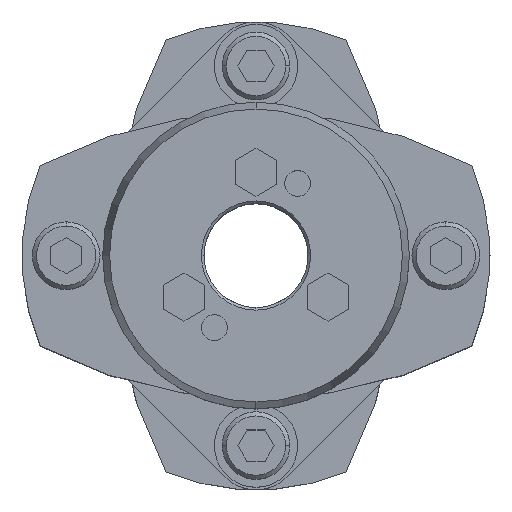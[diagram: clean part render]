
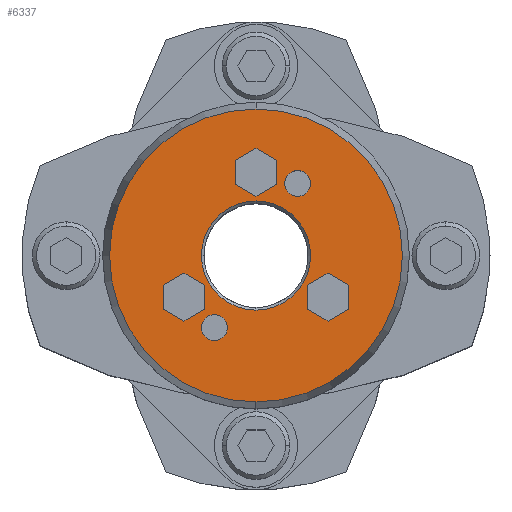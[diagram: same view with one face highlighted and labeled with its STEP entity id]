
A CAD part, top view. The second image highlights one B-rep face of the part: STEP entity #6337.
In plain terms, the highlighted planar face has unit normal (0, 0, 1).
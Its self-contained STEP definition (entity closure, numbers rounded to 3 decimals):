
#1677=CARTESIAN_POINT('',(0.,10.5,52.0));
#1678=VERTEX_POINT('',#1677);
#1694=CARTESIAN_POINT('',(0.,-10.5,52.0));
#1695=VERTEX_POINT('',#1694);
#1702=CARTESIAN_POINT('',(0.,0.,52.0));
#1703=DIRECTION('',(0.0,0.0,1.0));
#1704=DIRECTION('',(0.0,1.0,0.0));
#1705=AXIS2_PLACEMENT_3D('',#1702,#1703,#1704);
#1706=CIRCLE('',#1705,10.5);
#1707=EDGE_CURVE('',#1695,#1678,#1706,.T.);
#1865=CARTESIAN_POINT('',(0.,-28.16,52.0));
#1866=VERTEX_POINT('',#1865);
#1873=CARTESIAN_POINT('',(0.,28.16,52.0));
#1874=VERTEX_POINT('',#1873);
#1875=CARTESIAN_POINT('',(0.,0.,52.0));
#1876=DIRECTION('',(0.0,0.0,-1.0));
#1877=DIRECTION('',(0.0,-1.0,0.0));
#1878=AXIS2_PLACEMENT_3D('',#1875,#1876,#1877);
#1879=CIRCLE('',#1878,28.16);
#1880=EDGE_CURVE('',#1866,#1874,#1879,.T.);
#2123=CARTESIAN_POINT('',(8.,16.356,52.0));
#2124=VERTEX_POINT('',#2123);
#2140=CARTESIAN_POINT('',(8.,11.356,52.0));
#2141=VERTEX_POINT('',#2140);
#2148=CARTESIAN_POINT('',(8.,13.856,52.0));
#2149=DIRECTION('',(0.0,0.0,-1.0));
#2150=DIRECTION('',(0.0,1.0,0.0));
#2151=AXIS2_PLACEMENT_3D('',#2148,#2149,#2150);
#2152=CIRCLE('',#2151,2.5);
#2153=EDGE_CURVE('',#2124,#2141,#2152,.T.);
#2165=CARTESIAN_POINT('',(-8.,-11.356,52.0));
#2166=VERTEX_POINT('',#2165);
#2182=CARTESIAN_POINT('',(-8.,-16.356,52.0));
#2183=VERTEX_POINT('',#2182);
#2190=CARTESIAN_POINT('',(-8.,-13.856,52.0));
#2191=DIRECTION('',(0.0,0.0,-1.0));
#2192=DIRECTION('',(0.0,1.0,0.0));
#2193=AXIS2_PLACEMENT_3D('',#2190,#2191,#2192);
#2194=CIRCLE('',#2193,2.5);
#2195=EDGE_CURVE('',#2166,#2183,#2194,.T.);
#4853=CARTESIAN_POINT('',(13.856,-3.381,52.0));
#4854=VERTEX_POINT('',#4853);
#4861=CARTESIAN_POINT('',(9.856,-5.691,52.0));
#4862=VERTEX_POINT('',#4861);
#4863=CARTESIAN_POINT('',(9.856,-5.691,52.0));
#4864=DIRECTION('',(0.866,0.5,0.0));
#4865=VECTOR('',#4864,4.619);
#4866=LINE('',#4863,#4865);
#4867=EDGE_CURVE('',#4862,#4854,#4866,.T.);
#4891=CARTESIAN_POINT('',(17.856,-5.691,52.0));
#4892=VERTEX_POINT('',#4891);
#4899=CARTESIAN_POINT('',(13.856,-3.381,52.0));
#4900=DIRECTION('',(0.866,-0.5,0.0));
#4901=VECTOR('',#4900,4.619);
#4902=LINE('',#4899,#4901);
#4903=EDGE_CURVE('',#4854,#4892,#4902,.T.);
#4922=CARTESIAN_POINT('',(17.856,-10.309,52.0));
#4923=VERTEX_POINT('',#4922);
#4930=CARTESIAN_POINT('',(17.856,-5.691,52.0));
#4931=DIRECTION('',(0.0,-1.0,0.0));
#4932=VECTOR('',#4931,4.619);
#4933=LINE('',#4930,#4932);
#4934=EDGE_CURVE('',#4892,#4923,#4933,.T.);
#4953=CARTESIAN_POINT('',(13.856,-12.619,52.0));
#4954=VERTEX_POINT('',#4953);
#4961=CARTESIAN_POINT('',(17.856,-10.309,52.0));
#4962=DIRECTION('',(-0.866,-0.5,0.0));
#4963=VECTOR('',#4962,4.619);
#4964=LINE('',#4961,#4963);
#4965=EDGE_CURVE('',#4923,#4954,#4964,.T.);
#4984=CARTESIAN_POINT('',(9.856,-10.309,52.0));
#4985=VERTEX_POINT('',#4984);
#4992=CARTESIAN_POINT('',(13.856,-12.619,52.0));
#4993=DIRECTION('',(-0.866,0.5,0.0));
#4994=VECTOR('',#4993,4.619);
#4995=LINE('',#4992,#4994);
#4996=EDGE_CURVE('',#4954,#4985,#4995,.T.);
#5014=CARTESIAN_POINT('',(9.856,-10.309,52.0));
#5015=DIRECTION('',(0.0,1.0,0.0));
#5016=VECTOR('',#5015,4.619);
#5017=LINE('',#5014,#5016);
#5018=EDGE_CURVE('',#4985,#4862,#5017,.T.);
#5053=CARTESIAN_POINT('',(0.,20.619,52.0));
#5054=VERTEX_POINT('',#5053);
#5061=CARTESIAN_POINT('',(-4.,18.309,52.0));
#5062=VERTEX_POINT('',#5061);
#5063=CARTESIAN_POINT('',(-4.,18.309,52.0));
#5064=DIRECTION('',(0.866,0.5,0.0));
#5065=VECTOR('',#5064,4.619);
#5066=LINE('',#5063,#5065);
#5067=EDGE_CURVE('',#5062,#5054,#5066,.T.);
#5091=CARTESIAN_POINT('',(4.,18.309,52.0));
#5092=VERTEX_POINT('',#5091);
#5099=CARTESIAN_POINT('',(0.,20.619,52.0));
#5100=DIRECTION('',(0.866,-0.5,0.0));
#5101=VECTOR('',#5100,4.619);
#5102=LINE('',#5099,#5101);
#5103=EDGE_CURVE('',#5054,#5092,#5102,.T.);
#5122=CARTESIAN_POINT('',(4.,13.691,52.0));
#5123=VERTEX_POINT('',#5122);
#5130=CARTESIAN_POINT('',(4.,18.309,52.0));
#5131=DIRECTION('',(0.0,-1.0,0.0));
#5132=VECTOR('',#5131,4.619);
#5133=LINE('',#5130,#5132);
#5134=EDGE_CURVE('',#5092,#5123,#5133,.T.);
#5153=CARTESIAN_POINT('',(0.,11.381,52.0));
#5154=VERTEX_POINT('',#5153);
#5161=CARTESIAN_POINT('',(4.,13.691,52.0));
#5162=DIRECTION('',(-0.866,-0.5,0.0));
#5163=VECTOR('',#5162,4.619);
#5164=LINE('',#5161,#5163);
#5165=EDGE_CURVE('',#5123,#5154,#5164,.T.);
#5184=CARTESIAN_POINT('',(-4.,13.691,52.0));
#5185=VERTEX_POINT('',#5184);
#5192=CARTESIAN_POINT('',(0.,11.381,52.0));
#5193=DIRECTION('',(-0.866,0.5,0.0));
#5194=VECTOR('',#5193,4.619);
#5195=LINE('',#5192,#5194);
#5196=EDGE_CURVE('',#5154,#5185,#5195,.T.);
#5214=CARTESIAN_POINT('',(-4.,13.691,52.0));
#5215=DIRECTION('',(0.0,1.0,0.0));
#5216=VECTOR('',#5215,4.619);
#5217=LINE('',#5214,#5216);
#5218=EDGE_CURVE('',#5185,#5062,#5217,.T.);
#5253=CARTESIAN_POINT('',(-13.856,-3.381,52.0));
#5254=VERTEX_POINT('',#5253);
#5261=CARTESIAN_POINT('',(-17.856,-5.691,52.0));
#5262=VERTEX_POINT('',#5261);
#5263=CARTESIAN_POINT('',(-17.856,-5.691,52.0));
#5264=DIRECTION('',(0.866,0.5,0.0));
#5265=VECTOR('',#5264,4.619);
#5266=LINE('',#5263,#5265);
#5267=EDGE_CURVE('',#5262,#5254,#5266,.T.);
#5291=CARTESIAN_POINT('',(-9.856,-5.691,52.0));
#5292=VERTEX_POINT('',#5291);
#5299=CARTESIAN_POINT('',(-13.856,-3.381,52.0));
#5300=DIRECTION('',(0.866,-0.5,0.0));
#5301=VECTOR('',#5300,4.619);
#5302=LINE('',#5299,#5301);
#5303=EDGE_CURVE('',#5254,#5292,#5302,.T.);
#5322=CARTESIAN_POINT('',(-9.856,-10.309,52.0));
#5323=VERTEX_POINT('',#5322);
#5330=CARTESIAN_POINT('',(-9.856,-5.691,52.0));
#5331=DIRECTION('',(0.0,-1.0,0.0));
#5332=VECTOR('',#5331,4.619);
#5333=LINE('',#5330,#5332);
#5334=EDGE_CURVE('',#5292,#5323,#5333,.T.);
#5353=CARTESIAN_POINT('',(-13.856,-12.619,52.0));
#5354=VERTEX_POINT('',#5353);
#5361=CARTESIAN_POINT('',(-9.856,-10.309,52.0));
#5362=DIRECTION('',(-0.866,-0.5,0.0));
#5363=VECTOR('',#5362,4.619);
#5364=LINE('',#5361,#5363);
#5365=EDGE_CURVE('',#5323,#5354,#5364,.T.);
#5384=CARTESIAN_POINT('',(-17.856,-10.309,52.0));
#5385=VERTEX_POINT('',#5384);
#5392=CARTESIAN_POINT('',(-13.856,-12.619,52.0));
#5393=DIRECTION('',(-0.866,0.5,0.0));
#5394=VECTOR('',#5393,4.619);
#5395=LINE('',#5392,#5394);
#5396=EDGE_CURVE('',#5354,#5385,#5395,.T.);
#5414=CARTESIAN_POINT('',(-17.856,-10.309,52.0));
#5415=DIRECTION('',(0.0,1.0,0.0));
#5416=VECTOR('',#5415,4.619);
#5417=LINE('',#5414,#5416);
#5418=EDGE_CURVE('',#5385,#5262,#5417,.T.);
#5444=CARTESIAN_POINT('',(-8.,-13.856,52.0));
#5445=DIRECTION('',(0.0,0.0,-1.0));
#5446=DIRECTION('',(0.0,1.0,0.0));
#5447=AXIS2_PLACEMENT_3D('',#5444,#5445,#5446);
#5448=CIRCLE('',#5447,2.5);
#5449=EDGE_CURVE('',#2183,#2166,#5448,.T.);
#5478=CARTESIAN_POINT('',(8.,13.856,52.0));
#5479=DIRECTION('',(0.0,0.0,-1.0));
#5480=DIRECTION('',(0.0,1.0,0.0));
#5481=AXIS2_PLACEMENT_3D('',#5478,#5479,#5480);
#5482=CIRCLE('',#5481,2.5);
#5483=EDGE_CURVE('',#2141,#2124,#5482,.T.);
#6276=CARTESIAN_POINT('',(0.,0.,52.0));
#6277=DIRECTION('',(0.0,0.0,-1.0));
#6278=DIRECTION('',(0.0,-1.0,0.0));
#6279=AXIS2_PLACEMENT_3D('',#6276,#6277,#6278);
#6280=CIRCLE('',#6279,28.16);
#6281=EDGE_CURVE('',#1874,#1866,#6280,.T.);
#6286=CARTESIAN_POINT('',(0.,2.682,52.0));
#6287=DIRECTION('',(0.0,0.0,1.0));
#6288=DIRECTION('',(0.0,1.0,0.0));
#6289=AXIS2_PLACEMENT_3D('',#6286,#6287,#6288);
#6290=PLANE('',#6289);
#6291=ORIENTED_EDGE('',*,*,#6281,.F.);
#6292=ORIENTED_EDGE('',*,*,#1880,.F.);
#6293=EDGE_LOOP('',(#6291,#6292));
#6294=FACE_OUTER_BOUND('',#6293,.T.);
#6295=ORIENTED_EDGE('',*,*,#4867,.T.);
#6296=ORIENTED_EDGE('',*,*,#4903,.T.);
#6297=ORIENTED_EDGE('',*,*,#4934,.T.);
#6298=ORIENTED_EDGE('',*,*,#4965,.T.);
#6299=ORIENTED_EDGE('',*,*,#4996,.T.);
#6300=ORIENTED_EDGE('',*,*,#5018,.T.);
#6301=EDGE_LOOP('',(#6295,#6296,#6297,#6298,#6299,#6300));
#6302=FACE_BOUND('',#6301,.T.);
#6303=ORIENTED_EDGE('',*,*,#5067,.T.);
#6304=ORIENTED_EDGE('',*,*,#5103,.T.);
#6305=ORIENTED_EDGE('',*,*,#5134,.T.);
#6306=ORIENTED_EDGE('',*,*,#5165,.T.);
#6307=ORIENTED_EDGE('',*,*,#5196,.T.);
#6308=ORIENTED_EDGE('',*,*,#5218,.T.);
#6309=EDGE_LOOP('',(#6303,#6304,#6305,#6306,#6307,#6308));
#6310=FACE_BOUND('',#6309,.T.);
#6311=ORIENTED_EDGE('',*,*,#5267,.T.);
#6312=ORIENTED_EDGE('',*,*,#5303,.T.);
#6313=ORIENTED_EDGE('',*,*,#5334,.T.);
#6314=ORIENTED_EDGE('',*,*,#5365,.T.);
#6315=ORIENTED_EDGE('',*,*,#5396,.T.);
#6316=ORIENTED_EDGE('',*,*,#5418,.T.);
#6317=EDGE_LOOP('',(#6311,#6312,#6313,#6314,#6315,#6316));
#6318=FACE_BOUND('',#6317,.T.);
#6319=ORIENTED_EDGE('',*,*,#2195,.T.);
#6320=ORIENTED_EDGE('',*,*,#5449,.T.);
#6321=EDGE_LOOP('',(#6319,#6320));
#6322=FACE_BOUND('',#6321,.T.);
#6323=ORIENTED_EDGE('',*,*,#2153,.T.);
#6324=ORIENTED_EDGE('',*,*,#5483,.T.);
#6325=EDGE_LOOP('',(#6323,#6324));
#6326=FACE_BOUND('',#6325,.T.);
#6327=ORIENTED_EDGE('',*,*,#1707,.F.);
#6328=CARTESIAN_POINT('',(0.,0.,52.0));
#6329=DIRECTION('',(0.0,0.0,1.0));
#6330=DIRECTION('',(0.0,1.0,0.0));
#6331=AXIS2_PLACEMENT_3D('',#6328,#6329,#6330);
#6332=CIRCLE('',#6331,10.5);
#6333=EDGE_CURVE('',#1678,#1695,#6332,.T.);
#6334=ORIENTED_EDGE('',*,*,#6333,.F.);
#6335=EDGE_LOOP('',(#6327,#6334));
#6336=FACE_BOUND('',#6335,.T.);
#6337=ADVANCED_FACE('',(#6294,#6302,#6310,#6318,#6322,#6326,#6336),#6290,.T.);
